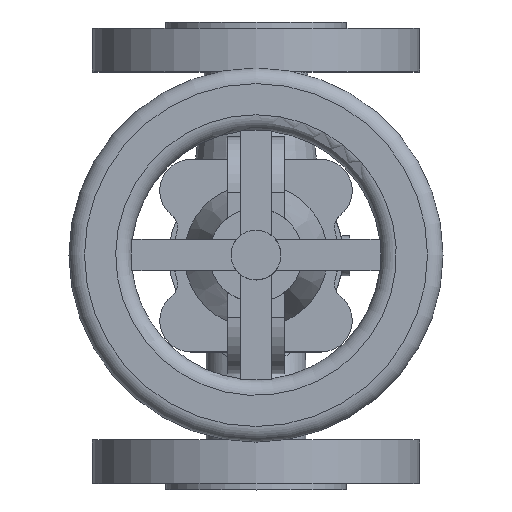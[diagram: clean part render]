
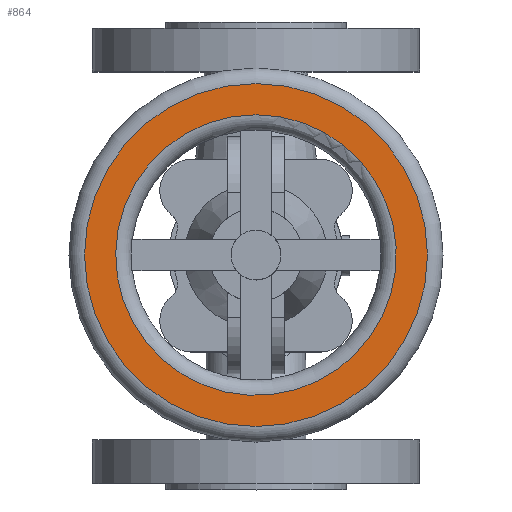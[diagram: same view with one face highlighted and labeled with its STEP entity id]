
A CAD part, top view. The second image highlights one B-rep face of the part: STEP entity #864.
In plain terms, the highlighted planar face has unit normal (0, 0, 1).
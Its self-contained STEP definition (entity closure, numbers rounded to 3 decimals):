
#864=ADVANCED_FACE('',(#2521,#2523),#2525,.T.);
#2521=FACE_BOUND('',#2522,.T.);
#2522=EDGE_LOOP('',(#29586,#29587));
#2523=FACE_BOUND('',#2524,.T.);
#2524=EDGE_LOOP('',(#29588,#29589));
#2525=PLANE('',#2526);
#2526=AXIS2_PLACEMENT_3D('',#2527,#2528,#2529);
#2527=CARTESIAN_POINT('',(0.,0.,175.));
#2528=DIRECTION('',(0.,0.,1.));
#2529=DIRECTION('',(0.,1.,0.));
#29586=ORIENTED_EDGE('',*,*,#37012,.F.);
#29587=ORIENTED_EDGE('',*,*,#37013,.F.);
#29588=ORIENTED_EDGE('',*,*,#36997,.T.);
#29589=ORIENTED_EDGE('',*,*,#36996,.T.);
#36996=EDGE_CURVE('',#37681,#37682,#37683,.T.);
#36997=EDGE_CURVE('',#37682,#37681,#37684,.T.);
#37012=EDGE_CURVE('',#37713,#37714,#37715,.T.);
#37013=EDGE_CURVE('',#37714,#37713,#37716,.T.);
#37681=VERTEX_POINT('',#39500);
#37682=VERTEX_POINT('',#39501);
#37683=CIRCLE('',#39502,45.);
#37684=CIRCLE('',#39506,45.);
#37713=VERTEX_POINT('',#39578);
#37714=VERTEX_POINT('',#39579);
#37715=CIRCLE('',#39580,55.);
#37716=CIRCLE('',#39584,55.);
#39500=CARTESIAN_POINT('',(-29.77,-33.745,175.));
#39501=CARTESIAN_POINT('',(0.,45.,175.));
#39502=AXIS2_PLACEMENT_3D('',#39503,#39504,#39505);
#39503=CARTESIAN_POINT('',(0.,0.,175.));
#39504=DIRECTION('',(0.,0.,-1.));
#39505=DIRECTION('',(-0.662,-0.75,0.));
#39506=AXIS2_PLACEMENT_3D('',#39507,#39508,#39509);
#39507=CARTESIAN_POINT('',(0.,0.,175.));
#39508=DIRECTION('',(0.,0.,-1.));
#39509=DIRECTION('',(0.,1.,0.));
#39578=CARTESIAN_POINT('',(0.,-55.,175.));
#39579=CARTESIAN_POINT('',(0.,55.,175.));
#39580=AXIS2_PLACEMENT_3D('',#39581,#39582,#39583);
#39581=CARTESIAN_POINT('',(0.,0.,175.));
#39582=DIRECTION('',(0.,0.,-1.));
#39583=DIRECTION('',(0.,-1.,0.));
#39584=AXIS2_PLACEMENT_3D('',#39585,#39586,#39587);
#39585=CARTESIAN_POINT('',(0.,0.,175.));
#39586=DIRECTION('',(0.,0.,-1.));
#39587=DIRECTION('',(0.,1.,0.));
